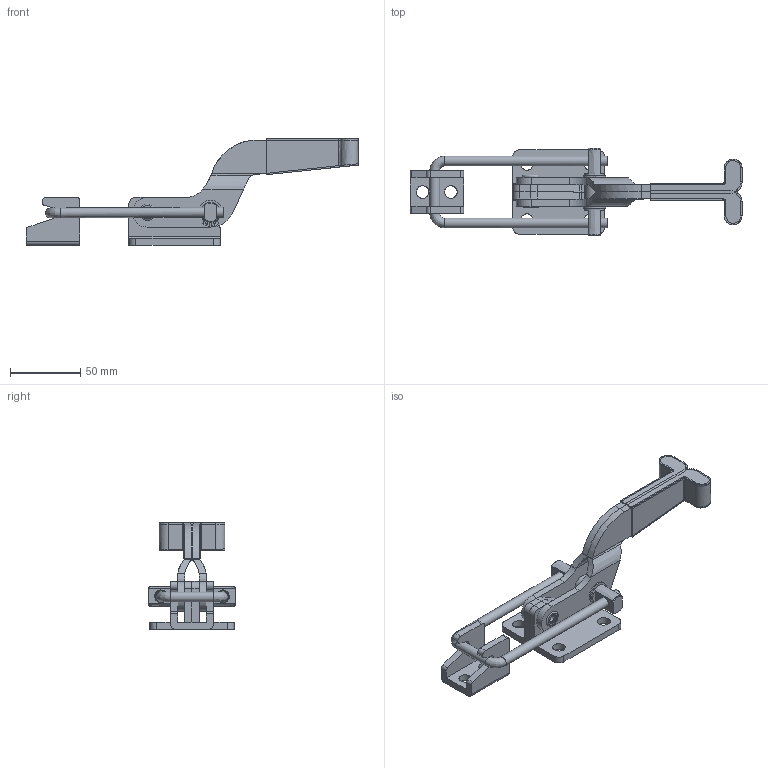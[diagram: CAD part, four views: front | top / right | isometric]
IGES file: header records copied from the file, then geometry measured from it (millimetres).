
Global section: file name: DR_C-070-41FS; native system: Autodesk Inventor 2015; preprocessor: unknown; author: Administrator; date: 20180302.110502; units: millimetre
Bounding box: 235.64 x 62 x 75.79 mm (x, y, z)
Volume: 113418 mm3; surface area: 77755.7 mm2
Topology: 11 solids, 11 shells, 284 faces, 780 edges, 540 vertices
Faces by surface type: bspline 268, plane 12, revolution 4
